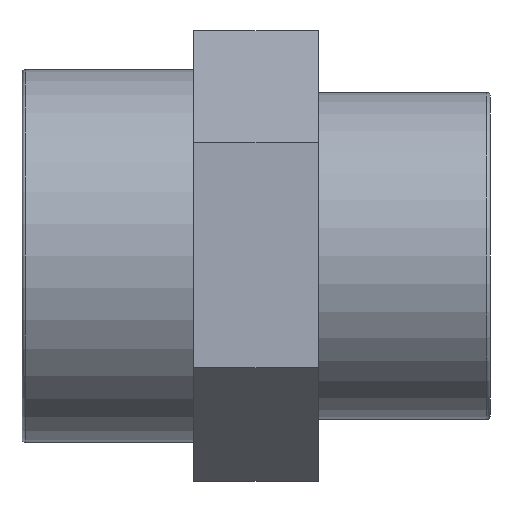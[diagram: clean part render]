
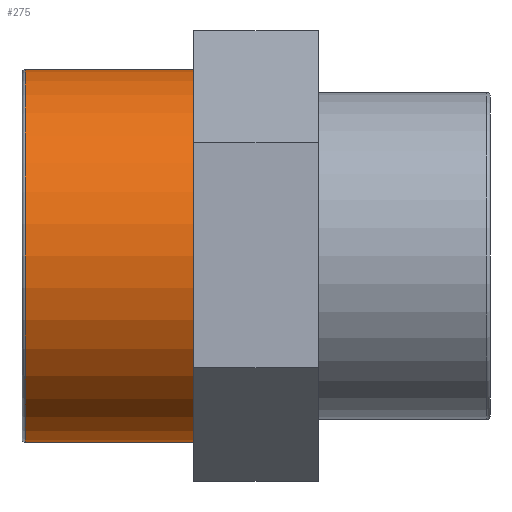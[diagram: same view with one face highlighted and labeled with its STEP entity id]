
A CAD part, front view. The second image highlights one B-rep face of the part: STEP entity #275.
In plain terms, the highlighted cylindrical face has radius 23.901 mm (diameter 47.803 mm), a full revolution.
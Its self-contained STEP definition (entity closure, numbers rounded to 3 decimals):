
#18=CYLINDRICAL_SURFACE('',#307,23.902);
#28=FACE_BOUND('',#92,.T.);
#42=CIRCLE('',#306,23.902);
#43=CIRCLE('',#308,23.902);
#63=FACE_OUTER_BOUND('',#91,.T.);
#91=EDGE_LOOP('',(#231));
#92=EDGE_LOOP('',(#232));
#157=VERTEX_POINT('',#460);
#158=VERTEX_POINT('',#463);
#187=EDGE_CURVE('',#157,#157,#42,.T.);
#188=EDGE_CURVE('',#158,#158,#43,.T.);
#231=ORIENTED_EDGE('',*,*,#188,.T.);
#232=ORIENTED_EDGE('',*,*,#187,.F.);
#275=ADVANCED_FACE('',(#63,#28),#18,.T.);
#306=AXIS2_PLACEMENT_3D('',#461,#382,#383);
#307=AXIS2_PLACEMENT_3D('',#462,#384,#385);
#308=AXIS2_PLACEMENT_3D('',#464,#386,#387);
#382=DIRECTION('center_axis',(-1.,0.,0.));
#383=DIRECTION('ref_axis',(0.,1.,0.));
#384=DIRECTION('center_axis',(-1.,0.,0.));
#385=DIRECTION('ref_axis',(0.,-1.,0.));
#386=DIRECTION('center_axis',(-1.,0.,0.));
#387=DIRECTION('ref_axis',(0.,0.,1.));
#460=CARTESIAN_POINT('',(-29.581,-23.902,0.));
#461=CARTESIAN_POINT('Origin',(-29.581,0.,0.));
#462=CARTESIAN_POINT('Origin',(-19.,0.,0.));
#463=CARTESIAN_POINT('',(-8.,-23.902,0.));
#464=CARTESIAN_POINT('Origin',(-8.,0.,0.));
